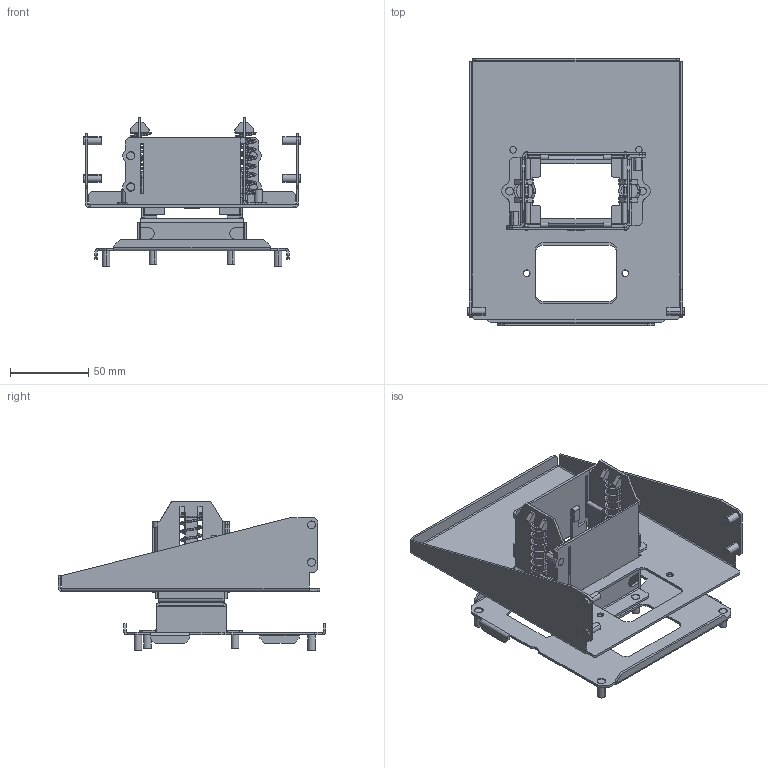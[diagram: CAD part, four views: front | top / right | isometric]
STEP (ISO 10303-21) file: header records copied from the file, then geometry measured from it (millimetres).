
FILE_DESCRIPTION(('CAx-IF Rec.Pracs.---Model Styling and Organization---1.2---2011-12-15','CAx-IF Rec.Pracs.---Geometric and Assembly Validation Properties---4.1---2014-06-16','CAx-IF Rec.Pracs.---PMI Polyline Presentation---2.0---2013-05-24'),'2;1');
FILE_NAME('R5M2W4M3BR35.stp','2021-05-05T12:23:46+03:00',(''),(''),'STEP Interface 4.4 by CT CoreTechnologie','3D_Evolution4.4 by CT CoreTechnologie','');
FILE_SCHEMA(('AUTOMOTIVE_DESIGN { 1 0 10303 214 1 1 1 1 }'));
Length unit declared in the file: millimetre
Products named in the file (9): R5M2W4M3BR35; RB.1621.00.00.0_-00; RB.1569.00.00.0_-00; RB.1567.00.00.0_-01; RB.1570.00.00.0; M5x8-DIN7500C_stright; RB.1571.00.00.0_In prestressed condition - 40 mm; RB.1254.00.00.0_-02; RB.1353.00.00.0_-03
Assembly tree (31 placements, depth 2):
  R5M2W4M3BR35
    RB.1621.00.00.0_-00  x4
    RB.1569.00.00.0_-00  x2
    RB.1567.00.00.0_-01
    RB.1570.00.00.0  x2
    M5x8-DIN7500C_stright  x18
    RB.1571.00.00.0_In prestressed condition - 40 mm  x2
    RB.1254.00.00.0_-02
    RB.1353.00.00.0_-03
Bounding box: 139.1 x 171.15 x 95.4 mm (x, y, z)
Surface area: 137449.5 mm2 (no closed solid volume)
Topology: 0 solids, 39 shells, 708 faces, 1817 edges, 1187 vertices
Faces by surface type: plane 495, cylinder 193, bspline 20
Entity records: 15665 total; most frequent: CARTESIAN_POINT 3806, ORIENTED_EDGE 2310, DIRECTION 2293, EDGE_CURVE 1155, VECTOR 905, LINE 905, VERTEX_POINT 747, AXIS2_PLACEMENT_3D 694
